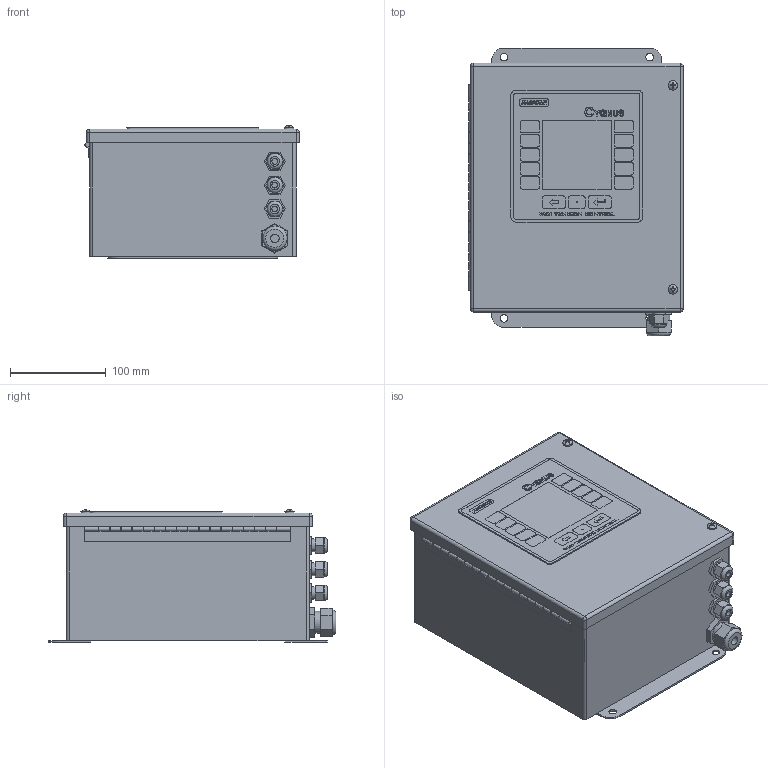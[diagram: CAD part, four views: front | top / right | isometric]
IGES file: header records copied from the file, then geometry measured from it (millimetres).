
Global section: file name: No Iges File Name specified; native system: Autodesk Inventor 2012; preprocessor: AutoDesk Inventor Iges Exporter R2012; author: lzuniga; date: 20121025.093423; units: inch
Bounding box: 223.9 x 300.99 x 138.84 mm (x, y, z)
Volume: 1218002.2 mm3; surface area: 479359.6 mm2
Topology: 1 solids, 1 shells, 849 faces, 2236 edges, 1480 vertices
Faces by surface type: plane 576, bspline 125, cylinder 70, revolution 69, sphere 5, torus 4
Full cylindrical faces by diameter (mm): 9.906 x2, 13.462 x3, 16.256 x3, 22.86 x1, 25.4 x1
